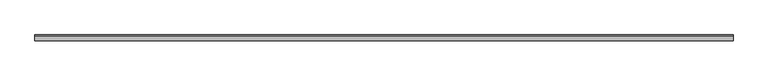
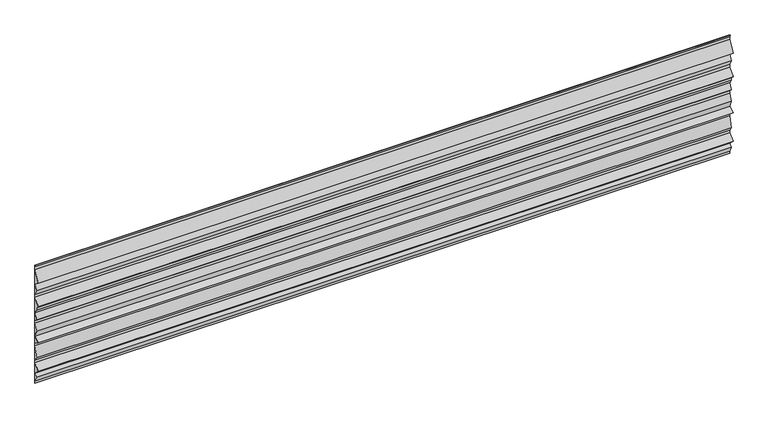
"""IFC4 building model written with IfcOpenShell, lengths in millimetres: plate geometry, ATELIERS 3S_GLACE PISSAILLAS 1000_HORIZONTAL : AZURO."""

import ifcopenshell
import ifcopenshell.guid

model = None  # the IFC model being written
_history = None  # IfcOwnerHistory: only IFC2X3 demands one
_inside = {}  # id of a spatial element -> (the spatial element, [elements in it])
_under = {}  # id of a project, library or spatial element -> (it, [spatial elements below it])
_declared = {}  # id of a project -> (the project, [libraries it declares])
_typed = {}  # id of a type object -> (the type object, [elements of that type])
_made_of = {}  # id of a material, layer set ... -> (it, [elements and type objects made of it])


def new_model(schema):
    """Start an empty IFC model of exactly this schema.

    Asked for "IFC4X3", IfcOpenShell would pick the latest addendum, in which some entities
    have other attributes; the version numbers below select the first issue.
    IFC2X3 requires an IfcOwnerHistory on every rooted entity: one is made here for all.
    """
    global model, _history
    if schema == "IFC4X3":
        model = ifcopenshell.file(schema_version=(4, 3, 0, 0))
    else:
        model = ifcopenshell.file(schema=schema)
    _inside.clear()
    _under.clear()
    _declared.clear()
    _typed.clear()
    _made_of.clear()
    _history = None
    if model.schema == "IFC2X3":
        org = make("IfcOrganization", Name="unknown")
        user = make(
            "IfcPersonAndOrganization",
            ThePerson=make("IfcPerson", FamilyName="unknown"),
            TheOrganization=org,
        )
        app = make(
            "IfcApplication",
            ApplicationDeveloper=org,
            Version="unknown",
            ApplicationFullName="unknown",
            ApplicationIdentifier="unknown",
        )
        _history = make(
            "IfcOwnerHistory",
            OwningUser=user,
            OwningApplication=app,
            ChangeAction="ADDED",
            CreationDate=0,
        )
    return model


def make(cls, **values):
    """One entity of the class cls with the attributes given. An attribute that is None is left unset."""
    return model.create_entity(
        cls, **{name: value for name, value in values.items() if value is not None}
    )


def rooted(cls, **values):
    """An entity with a GlobalId (a new one), such as an element, a storey or a relation."""
    return make(cls, GlobalId=ifcopenshell.guid.new(), OwnerHistory=_history, **values)


def si_unit(unit_type, name, prefix=None):
    """IfcSIUnit, for example si_unit("LENGTHUNIT", "METRE", prefix="MILLI")."""
    return make("IfcSIUnit", UnitType=unit_type, Prefix=prefix, Name=name)


def assignment(units):
    """IfcUnitAssignment: the units of a project."""
    return None if units is None else make("IfcUnitAssignment", Units=units)


def point(xyz):
    """IfcCartesianPoint."""
    return None if xyz is None else make("IfcCartesianPoint", Coordinates=xyz)


def direction(xyz):
    """IfcDirection."""
    return None if xyz is None else make("IfcDirection", DirectionRatios=xyz)


def frame(location, z_axis=None, x_axis=None):
    """IfcAxis2Placement3D, a coordinate frame: its origin and axes. An axis left out is left unset."""
    return make(
        "IfcAxis2Placement3D",
        Location=point(location),
        Axis=direction(z_axis),
        RefDirection=direction(x_axis),
    )


def origin():
    """The frame at (0, 0, 0) with its axes left unset."""
    return frame((0.0, 0.0, 0.0))


def place(relative_to, where):
    """IfcLocalPlacement: puts the frame where relative to a parent placement (None: the world)."""
    return make(
        "IfcLocalPlacement", PlacementRelTo=relative_to, RelativePlacement=where
    )


def context(
    kind, dimensions, precision=None, world=None, true_north=None, identifier=None
):
    """IfcGeometricRepresentationContext, for example the 3D "Model" context."""
    return make(
        "IfcGeometricRepresentationContext",
        ContextIdentifier=identifier,
        ContextType=kind,
        CoordinateSpaceDimension=dimensions,
        Precision=precision,
        WorldCoordinateSystem=world,
        TrueNorth=true_north,
    )


def project(units=None, contexts=None):
    """IfcProject with its units and contexts."""
    return rooted(
        "IfcProject",
        Name="project",
        RepresentationContexts=contexts,
        UnitsInContext=assignment(units),
    )


def spatial(cls, under=None, at=None, **own):
    """A site, building, storey or space (cls), placed at a placement, below another one or the project."""
    s = rooted(cls, ObjectPlacement=at, **own)
    if under is not None:
        _under.setdefault(under.id(), (under, []))[1].append(s)
    return s


def polyline(points):
    """IfcPolyline through the points."""
    return make("IfcPolyline", Points=[point(p) for p in points])


def outline(outer, holes=None, kind="AREA"):
    """IfcArbitraryClosedProfileDef: a profile drawn as a closed curve; with holes, ...WithVoids."""
    if holes is None:
        return make("IfcArbitraryClosedProfileDef", ProfileType=kind, OuterCurve=outer)
    return make(
        "IfcArbitraryProfileDefWithVoids",
        ProfileType=kind,
        OuterCurve=outer,
        InnerCurves=holes,
    )


def extrude(swept, where, along, depth):
    """IfcExtrudedAreaSolid: the profile swept, set in the frame where, extruded along a direction by depth."""
    return make(
        "IfcExtrudedAreaSolid",
        SweptArea=swept,
        Position=where,
        ExtrudedDirection=direction(along),
        Depth=depth,
    )


def shape(context_of_items, identifier, shape_type, items):
    """IfcShapeRepresentation: the items that make up one representation, for example the "Body"."""
    return make(
        "IfcShapeRepresentation",
        ContextOfItems=context_of_items,
        RepresentationIdentifier=identifier,
        RepresentationType=shape_type,
        Items=items,
    )


def source(mapping_origin, context_of_items, identifier, shape_type, items):
    """IfcRepresentationMap: a shape defined once, which mapped items show again and again."""
    return make(
        "IfcRepresentationMap",
        MappingOrigin=mapping_origin,
        MappedRepresentation=shape(context_of_items, identifier, shape_type, items),
    )


def transform(
    local_origin,
    x_axis=None,
    y_axis=None,
    z_axis=None,
    scale=None,
    scale2=None,
    scale3=None,
    uniform=True,
):
    """IfcCartesianTransformationOperator3D, or its non-uniform kind. x_axis, y_axis, z_axis: its Axis1, 2, 3."""
    if uniform:
        return make(
            "IfcCartesianTransformationOperator3D",
            Axis1=direction(x_axis),
            Axis2=direction(y_axis),
            LocalOrigin=point(local_origin),
            Scale=scale,
            Axis3=direction(z_axis),
        )
    return make(
        "IfcCartesianTransformationOperator3DnonUniform",
        Axis1=direction(x_axis),
        Axis2=direction(y_axis),
        LocalOrigin=point(local_origin),
        Scale=scale,
        Axis3=direction(z_axis),
        Scale2=scale2,
        Scale3=scale3,
    )


def mapped(mapping_source, mapping_target):
    """IfcMappedItem: shows the shape of a source again, moved by a transform."""
    return make(
        "IfcMappedItem", MappingSource=mapping_source, MappingTarget=mapping_target
    )


def made_of(thing, what):
    """Note that an element or type object is made of a material, layer set ...; save() writes the relation."""
    if what is not None:
        _made_of.setdefault(what.id(), (what, []))[1].append(thing)
    return thing


def element(
    cls,
    number,
    at=None,
    inside=None,
    cuts=None,
    type_object=None,
    material=None,
    context=None,
    identifier="Body",
    shape_type=None,
    held_by="IfcProductDefinitionShape",
    body=None,
    shapes=None,
    **own,
):
    """One element of the class cls, such as IfcWall. Its Tag is "e" and its number.

    at: its placement. inside: the storey or other place that contains it. cuts: it is an
    opening in that element (IfcRelVoidsElement). A single representation is given by context,
    identifier, shape_type and body (its items); several are given by shapes. held_by: the class
    of the entity that holds the representations. save() writes the other relations.
    """
    e = rooted(cls, Tag="e%d" % number, ObjectPlacement=at, **own)
    if body is not None:
        shapes = [shape(context, identifier, shape_type, body)]
    if shapes is not None:
        e.Representation = make(held_by, Representations=shapes)
    if inside is not None:
        _inside.setdefault(inside.id(), (inside, []))[1].append(e)
    if cuts is not None:
        rooted(
            "IfcRelVoidsElement", RelatingBuildingElement=cuts, RelatedOpeningElement=e
        )
    if type_object is not None:
        _typed.setdefault(type_object.id(), (type_object, []))[1].append(e)
    return made_of(e, material)


def aggregate(whole, parts):
    """IfcRelAggregates: a whole, such as a stair, and the parts it consists of."""
    return rooted("IfcRelAggregates", RelatingObject=whole, RelatedObjects=parts)


def save(model, path):
    """Write the relations noted so far, then the file.

    IfcRelAggregates (storeys below a building ...), IfcRelContainedInSpatialStructure (elements
    in a storey), IfcRelDefinesByType, IfcRelAssociatesMaterial and IfcRelDeclares: one each for
    every whole, place, type object, material and project.
    """
    for whole, parts in _under.values():
        aggregate(whole, parts)
    for where, things in _inside.values():
        rooted(
            "IfcRelContainedInSpatialStructure",
            RelatedElements=things,
            RelatingStructure=where,
        )
    for kind, things in _typed.values():
        rooted("IfcRelDefinesByType", RelatedObjects=things, RelatingType=kind)
    for what, things in _made_of.values():
        rooted("IfcRelAssociatesMaterial", RelatedObjects=things, RelatingMaterial=what)
    for by, libraries in _declared.values():
        rooted("IfcRelDeclares", RelatingContext=by, RelatedDefinitions=libraries)
    model.write(path)


def plate_7cee7cfb(model_context):
    return source(origin(), model_context, "Body", "SweptSolid", [
        extrude(outline(polyline([(-0.8, 0.0), (-0.8, 16.9163895), (-20.9135393, 57.5498441), (-1.0660999, 76.9962838), (-41.0606602, 116.9908441), (-0.75, 157.3015043), (-0.75, 176.7637624), (-20.8080747, 206.8508744), (-0.75, 287.0831733), (-0.75, 306.5751584), (-41.4150972, 331.9908441), (-0.9292392, 357.2945053), (-20.8077747, 406.9908441), (-0.75, 457.1352809), (-0.75, 476.6801839), (-20.9125704, 496.8427543), (-0.8654665, 536.9369621), (-20.75, 566.7637624), (-20.75, 586.6801839), (-41.009736, 606.9399199), (-0.75, 656.2580964), (-0.75, 675.8137931), (-20.8385255, 715.9908441), (-0.9507458, 755.7664035), (-40.9507458, 785.7664035), (-0.75, 866.1678951), (-0.75, 885.8862432), (-4.7649271, 900.0), (0.0, 900.0), (0.0, 0.0), (-0.8, 0.0)])), frame((-2500.0, 0.0, 0.0), z_axis=(1.0, 0.0, 0.0), x_axis=(0.0, 1.0, 0.0)), (0.0, 0.0, 1.0), 5000.0),
    ])


if __name__ == "__main__":
    model = new_model("IFC4")
    model_context = context("Model", 3, world=origin())
    ifc_project = project(units=[si_unit("LENGTHUNIT", "METRE", prefix="MILLI")], contexts=[model_context])
    site = spatial("IfcSite", under=ifc_project)
    building = spatial("IfcBuilding", under=site)
    placement = place(None, origin())
    plate_shape = plate_7cee7cfb(model_context)
    element("IfcPlate", 1, ObjectType="ATELIERS 3S_GLACE PISSAILLAS 1000_HORIZONTAL : AZURO", at=placement, inside=building, context=model_context, shape_type="MappedRepresentation", body=[
        mapped(plate_shape, transform((0.0, 0.0, 0.0), x_axis=(1.0, 0.0, 0.0), y_axis=(0.0, 1.0, 0.0), z_axis=(0.0, 0.0, 1.0))),
    ])
    save(model, "model.ifc")
